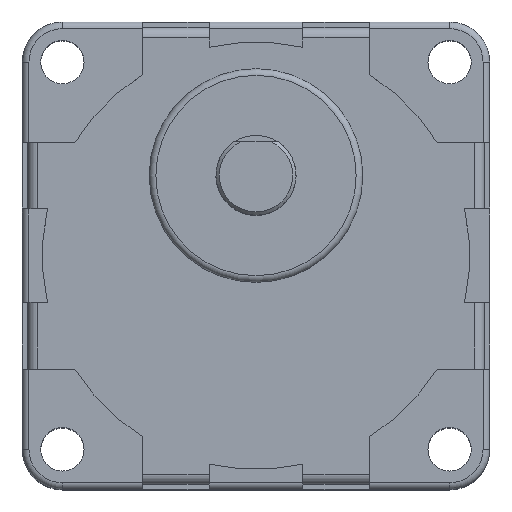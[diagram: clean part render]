
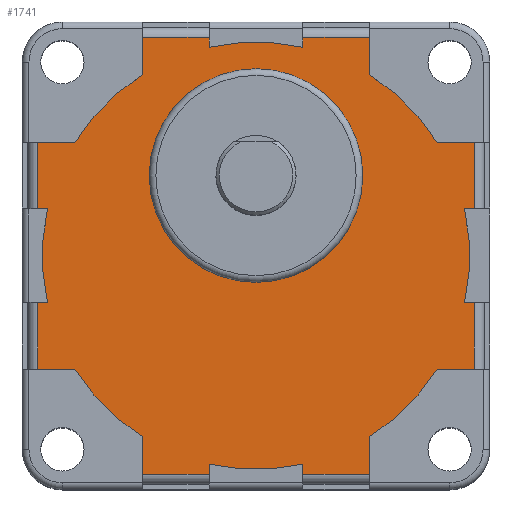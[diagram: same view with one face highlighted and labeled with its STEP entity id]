
A CAD part, top view. The second image highlights one B-rep face of the part: STEP entity #1741.
In plain terms, the highlighted planar face has unit normal (0, 0, 1).
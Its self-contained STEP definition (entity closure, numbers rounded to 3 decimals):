
#29=LINE('',#2638,#196);
#33=LINE('',#2650,#200);
#35=LINE('',#2656,#202);
#36=LINE('',#2660,#203);
#37=LINE('',#2662,#204);
#38=LINE('',#2664,#205);
#39=LINE('',#2668,#206);
#40=LINE('',#2670,#207);
#41=LINE('',#2672,#208);
#42=LINE('',#2676,#209);
#43=LINE('',#2678,#210);
#44=LINE('',#2680,#211);
#45=LINE('',#2684,#212);
#46=LINE('',#2686,#213);
#47=LINE('',#2688,#214);
#48=LINE('',#2692,#215);
#49=LINE('',#2694,#216);
#50=LINE('',#2696,#217);
#51=LINE('',#2700,#218);
#52=LINE('',#2702,#219);
#53=LINE('',#2704,#220);
#54=LINE('',#2707,#221);
#55=LINE('',#2709,#222);
#56=LINE('',#2712,#223);
#196=VECTOR('',#2099,10.);
#200=VECTOR('',#2109,10.);
#202=VECTOR('',#2115,5.589);
#203=VECTOR('',#2118,5.589);
#204=VECTOR('',#2119,10.);
#205=VECTOR('',#2120,1.475);
#206=VECTOR('',#2123,1.475);
#207=VECTOR('',#2124,10.);
#208=VECTOR('',#2125,5.589);
#209=VECTOR('',#2128,5.589);
#210=VECTOR('',#2129,10.);
#211=VECTOR('',#2130,1.475);
#212=VECTOR('',#2133,1.475);
#213=VECTOR('',#2134,10.);
#214=VECTOR('',#2135,5.589);
#215=VECTOR('',#2138,5.589);
#216=VECTOR('',#2139,10.);
#217=VECTOR('',#2140,1.475);
#218=VECTOR('',#2143,1.475);
#219=VECTOR('',#2144,10.);
#220=VECTOR('',#2145,5.589);
#221=VECTOR('',#2148,5.589);
#222=VECTOR('',#2149,1.475);
#223=VECTOR('',#2152,1.475);
#364=PLANE('',#1867);
#461=FACE_BOUND('',#602,.T.);
#488=FACE_OUTER_BOUND('',#601,.T.);
#601=EDGE_LOOP('',(#1269,#1270,#1271,#1272,#1273,#1274,#1275,#1276,#1277,
#1278,#1279,#1280,#1281,#1282,#1283,#1284,#1285,#1286,#1287,#1288,#1289,
#1290,#1291,#1292,#1293,#1294,#1295,#1296,#1297,#1298,#1299,#1300));
#602=EDGE_LOOP('',(#1301));
#711=CIRCLE('',#1858,16.);
#716=CIRCLE('',#1868,32.);
#717=CIRCLE('',#1869,32.);
#718=CIRCLE('',#1870,32.);
#719=CIRCLE('',#1871,32.);
#720=CIRCLE('',#1872,32.);
#721=CIRCLE('',#1873,32.);
#722=CIRCLE('',#1874,32.);
#723=CIRCLE('',#1875,32.);
#805=VERTEX_POINT('',#2627);
#806=VERTEX_POINT('',#2631);
#809=VERTEX_POINT('',#2636);
#813=VERTEX_POINT('',#2647);
#814=VERTEX_POINT('',#2649);
#816=VERTEX_POINT('',#2655);
#817=VERTEX_POINT('',#2657);
#818=VERTEX_POINT('',#2659);
#819=VERTEX_POINT('',#2661);
#820=VERTEX_POINT('',#2663);
#821=VERTEX_POINT('',#2665);
#822=VERTEX_POINT('',#2667);
#823=VERTEX_POINT('',#2669);
#824=VERTEX_POINT('',#2671);
#825=VERTEX_POINT('',#2673);
#826=VERTEX_POINT('',#2675);
#827=VERTEX_POINT('',#2677);
#828=VERTEX_POINT('',#2679);
#829=VERTEX_POINT('',#2681);
#830=VERTEX_POINT('',#2683);
#831=VERTEX_POINT('',#2685);
#832=VERTEX_POINT('',#2687);
#833=VERTEX_POINT('',#2689);
#834=VERTEX_POINT('',#2691);
#835=VERTEX_POINT('',#2693);
#836=VERTEX_POINT('',#2695);
#837=VERTEX_POINT('',#2697);
#838=VERTEX_POINT('',#2699);
#839=VERTEX_POINT('',#2701);
#840=VERTEX_POINT('',#2703);
#841=VERTEX_POINT('',#2705);
#842=VERTEX_POINT('',#2708);
#843=VERTEX_POINT('',#2710);
#982=EDGE_CURVE('',#805,#805,#711,.T.);
#986=EDGE_CURVE('',#809,#806,#29,.T.);
#991=EDGE_CURVE('',#813,#814,#33,.T.);
#994=EDGE_CURVE('',#809,#816,#35,.T.);
#995=EDGE_CURVE('',#817,#816,#716,.T.);
#996=EDGE_CURVE('',#818,#817,#36,.T.);
#997=EDGE_CURVE('',#819,#818,#37,.T.);
#998=EDGE_CURVE('',#820,#819,#38,.T.);
#999=EDGE_CURVE('',#821,#820,#717,.T.);
#1000=EDGE_CURVE('',#821,#822,#39,.T.);
#1001=EDGE_CURVE('',#823,#822,#40,.T.);
#1002=EDGE_CURVE('',#823,#824,#41,.T.);
#1003=EDGE_CURVE('',#825,#824,#718,.T.);
#1004=EDGE_CURVE('',#826,#825,#42,.T.);
#1005=EDGE_CURVE('',#827,#826,#43,.T.);
#1006=EDGE_CURVE('',#828,#827,#44,.T.);
#1007=EDGE_CURVE('',#829,#828,#719,.T.);
#1008=EDGE_CURVE('',#829,#830,#45,.T.);
#1009=EDGE_CURVE('',#831,#830,#46,.T.);
#1010=EDGE_CURVE('',#831,#832,#47,.T.);
#1011=EDGE_CURVE('',#833,#832,#720,.T.);
#1012=EDGE_CURVE('',#834,#833,#48,.T.);
#1013=EDGE_CURVE('',#835,#834,#49,.T.);
#1014=EDGE_CURVE('',#836,#835,#50,.T.);
#1015=EDGE_CURVE('',#837,#836,#721,.T.);
#1016=EDGE_CURVE('',#837,#838,#51,.T.);
#1017=EDGE_CURVE('',#839,#838,#52,.T.);
#1018=EDGE_CURVE('',#839,#840,#53,.T.);
#1019=EDGE_CURVE('',#841,#840,#722,.T.);
#1020=EDGE_CURVE('',#814,#841,#54,.T.);
#1021=EDGE_CURVE('',#842,#813,#55,.T.);
#1022=EDGE_CURVE('',#843,#842,#723,.T.);
#1023=EDGE_CURVE('',#843,#806,#56,.T.);
#1269=ORIENTED_EDGE('',*,*,#986,.F.);
#1270=ORIENTED_EDGE('',*,*,#994,.T.);
#1271=ORIENTED_EDGE('',*,*,#995,.F.);
#1272=ORIENTED_EDGE('',*,*,#996,.F.);
#1273=ORIENTED_EDGE('',*,*,#997,.F.);
#1274=ORIENTED_EDGE('',*,*,#998,.F.);
#1275=ORIENTED_EDGE('',*,*,#999,.F.);
#1276=ORIENTED_EDGE('',*,*,#1000,.T.);
#1277=ORIENTED_EDGE('',*,*,#1001,.F.);
#1278=ORIENTED_EDGE('',*,*,#1002,.T.);
#1279=ORIENTED_EDGE('',*,*,#1003,.F.);
#1280=ORIENTED_EDGE('',*,*,#1004,.F.);
#1281=ORIENTED_EDGE('',*,*,#1005,.F.);
#1282=ORIENTED_EDGE('',*,*,#1006,.F.);
#1283=ORIENTED_EDGE('',*,*,#1007,.F.);
#1284=ORIENTED_EDGE('',*,*,#1008,.T.);
#1285=ORIENTED_EDGE('',*,*,#1009,.F.);
#1286=ORIENTED_EDGE('',*,*,#1010,.T.);
#1287=ORIENTED_EDGE('',*,*,#1011,.F.);
#1288=ORIENTED_EDGE('',*,*,#1012,.F.);
#1289=ORIENTED_EDGE('',*,*,#1013,.F.);
#1290=ORIENTED_EDGE('',*,*,#1014,.F.);
#1291=ORIENTED_EDGE('',*,*,#1015,.F.);
#1292=ORIENTED_EDGE('',*,*,#1016,.T.);
#1293=ORIENTED_EDGE('',*,*,#1017,.F.);
#1294=ORIENTED_EDGE('',*,*,#1018,.T.);
#1295=ORIENTED_EDGE('',*,*,#1019,.F.);
#1296=ORIENTED_EDGE('',*,*,#1020,.F.);
#1297=ORIENTED_EDGE('',*,*,#991,.F.);
#1298=ORIENTED_EDGE('',*,*,#1021,.F.);
#1299=ORIENTED_EDGE('',*,*,#1022,.F.);
#1300=ORIENTED_EDGE('',*,*,#1023,.T.);
#1301=ORIENTED_EDGE('',*,*,#982,.F.);
#1741=ADVANCED_FACE('',(#488,#461),#364,.T.);
#1858=AXIS2_PLACEMENT_3D('',#2628,#2088,#2089);
#1867=AXIS2_PLACEMENT_3D('',#2654,#2113,#2114);
#1868=AXIS2_PLACEMENT_3D('',#2658,#2116,#2117);
#1869=AXIS2_PLACEMENT_3D('',#2666,#2121,#2122);
#1870=AXIS2_PLACEMENT_3D('',#2674,#2126,#2127);
#1871=AXIS2_PLACEMENT_3D('',#2682,#2131,#2132);
#1872=AXIS2_PLACEMENT_3D('',#2690,#2136,#2137);
#1873=AXIS2_PLACEMENT_3D('',#2698,#2141,#2142);
#1874=AXIS2_PLACEMENT_3D('',#2706,#2146,#2147);
#1875=AXIS2_PLACEMENT_3D('',#2711,#2150,#2151);
#2088=DIRECTION('center_axis',(0.,0.,1.));
#2089=DIRECTION('ref_axis',(-1.,0.,0.));
#2099=DIRECTION('',(0.,-1.,0.));
#2109=DIRECTION('',(0.,-1.,0.));
#2113=DIRECTION('center_axis',(0.,0.,1.));
#2114=DIRECTION('ref_axis',(1.,0.,0.));
#2115=DIRECTION('',(-1.,0.,0.));
#2116=DIRECTION('center_axis',(0.,0.,-1.));
#2117=DIRECTION('ref_axis',(-1.,0.,0.));
#2118=DIRECTION('',(0.,-1.,0.));
#2119=DIRECTION('',(1.,0.,0.));
#2120=DIRECTION('',(0.,1.,0.));
#2121=DIRECTION('center_axis',(0.,0.,-1.));
#2122=DIRECTION('ref_axis',(-1.,0.,0.));
#2123=DIRECTION('',(0.,1.,0.));
#2124=DIRECTION('',(1.,0.,0.));
#2125=DIRECTION('',(0.,-1.,0.));
#2126=DIRECTION('center_axis',(0.,0.,-1.));
#2127=DIRECTION('ref_axis',(-1.,0.,0.));
#2128=DIRECTION('',(1.,0.,0.));
#2129=DIRECTION('',(0.,1.,0.));
#2130=DIRECTION('',(-1.,0.,0.));
#2131=DIRECTION('center_axis',(0.,0.,-1.));
#2132=DIRECTION('ref_axis',(-1.,0.,0.));
#2133=DIRECTION('',(-1.,0.,0.));
#2134=DIRECTION('',(0.,1.,0.));
#2135=DIRECTION('',(1.,0.,0.));
#2136=DIRECTION('center_axis',(0.,0.,-1.));
#2137=DIRECTION('ref_axis',(-1.,0.,0.));
#2138=DIRECTION('',(0.,1.,0.));
#2139=DIRECTION('',(-1.,0.,0.));
#2140=DIRECTION('',(0.,-1.,0.));
#2141=DIRECTION('center_axis',(0.,0.,-1.));
#2142=DIRECTION('ref_axis',(-1.,0.,0.));
#2143=DIRECTION('',(0.,-1.,0.));
#2144=DIRECTION('',(-1.,0.,0.));
#2145=DIRECTION('',(0.,1.,0.));
#2146=DIRECTION('center_axis',(0.,0.,-1.));
#2147=DIRECTION('ref_axis',(-1.,0.,0.));
#2148=DIRECTION('',(-1.,0.,0.));
#2149=DIRECTION('',(1.,0.,0.));
#2150=DIRECTION('center_axis',(0.,0.,-1.));
#2151=DIRECTION('ref_axis',(-1.,0.,0.));
#2152=DIRECTION('',(1.,0.,0.));
#2627=CARTESIAN_POINT('',(16.,12.,47.2));
#2628=CARTESIAN_POINT('Origin',(0.,12.,47.2));
#2631=CARTESIAN_POINT('',(32.7,7.,47.2));
#2636=CARTESIAN_POINT('',(32.7,17.,47.2));
#2638=CARTESIAN_POINT('',(32.7,8.5,47.2));
#2647=CARTESIAN_POINT('',(32.7,-7.,47.2));
#2649=CARTESIAN_POINT('',(32.7,-17.,47.2));
#2650=CARTESIAN_POINT('',(32.7,-8.5,47.2));
#2654=CARTESIAN_POINT('Origin',(0.,0.,47.2));
#2655=CARTESIAN_POINT('',(27.111,17.,47.2));
#2656=CARTESIAN_POINT('',(27.111,17.,47.2));
#2657=CARTESIAN_POINT('',(17.,27.111,47.2));
#2658=CARTESIAN_POINT('Origin',(0.,0.,47.2));
#2659=CARTESIAN_POINT('',(17.,32.7,47.2));
#2660=CARTESIAN_POINT('',(17.,27.111,47.2));
#2661=CARTESIAN_POINT('',(7.,32.7,47.2));
#2662=CARTESIAN_POINT('',(8.5,32.7,47.2));
#2663=CARTESIAN_POINT('',(7.,31.225,47.2));
#2664=CARTESIAN_POINT('',(7.,35.,47.2));
#2665=CARTESIAN_POINT('',(-7.,31.225,47.2));
#2666=CARTESIAN_POINT('Origin',(0.,0.,47.2));
#2667=CARTESIAN_POINT('',(-7.,32.7,47.2));
#2668=CARTESIAN_POINT('',(-7.,35.,47.2));
#2669=CARTESIAN_POINT('',(-17.,32.7,47.2));
#2670=CARTESIAN_POINT('',(-8.5,32.7,47.2));
#2671=CARTESIAN_POINT('',(-17.,27.111,47.2));
#2672=CARTESIAN_POINT('',(-17.,27.111,47.2));
#2673=CARTESIAN_POINT('',(-27.111,17.,47.2));
#2674=CARTESIAN_POINT('Origin',(0.,0.,47.2));
#2675=CARTESIAN_POINT('',(-32.7,17.,47.2));
#2676=CARTESIAN_POINT('',(-27.111,17.,47.2));
#2677=CARTESIAN_POINT('',(-32.7,7.,47.2));
#2678=CARTESIAN_POINT('',(-32.7,8.5,47.2));
#2679=CARTESIAN_POINT('',(-31.225,7.,47.2));
#2680=CARTESIAN_POINT('',(-35.,7.,47.2));
#2681=CARTESIAN_POINT('',(-31.225,-7.,47.2));
#2682=CARTESIAN_POINT('Origin',(0.,0.,47.2));
#2683=CARTESIAN_POINT('',(-32.7,-7.,47.2));
#2684=CARTESIAN_POINT('',(-35.,-7.,47.2));
#2685=CARTESIAN_POINT('',(-32.7,-17.,47.2));
#2686=CARTESIAN_POINT('',(-32.7,-8.5,47.2));
#2687=CARTESIAN_POINT('',(-27.111,-17.,47.2));
#2688=CARTESIAN_POINT('',(-27.111,-17.,47.2));
#2689=CARTESIAN_POINT('',(-17.,-27.111,47.2));
#2690=CARTESIAN_POINT('Origin',(0.,0.,47.2));
#2691=CARTESIAN_POINT('',(-17.,-32.7,47.2));
#2692=CARTESIAN_POINT('',(-17.,-27.111,47.2));
#2693=CARTESIAN_POINT('',(-7.,-32.7,47.2));
#2694=CARTESIAN_POINT('',(-8.5,-32.7,47.2));
#2695=CARTESIAN_POINT('',(-7.,-31.225,47.2));
#2696=CARTESIAN_POINT('',(-7.,-35.,47.2));
#2697=CARTESIAN_POINT('',(7.,-31.225,47.2));
#2698=CARTESIAN_POINT('Origin',(0.,0.,47.2));
#2699=CARTESIAN_POINT('',(7.,-32.7,47.2));
#2700=CARTESIAN_POINT('',(7.,-35.,47.2));
#2701=CARTESIAN_POINT('',(17.,-32.7,47.2));
#2702=CARTESIAN_POINT('',(8.5,-32.7,47.2));
#2703=CARTESIAN_POINT('',(17.,-27.111,47.2));
#2704=CARTESIAN_POINT('',(17.,-27.111,47.2));
#2705=CARTESIAN_POINT('',(27.111,-17.,47.2));
#2706=CARTESIAN_POINT('Origin',(0.,0.,47.2));
#2707=CARTESIAN_POINT('',(27.111,-17.,47.2));
#2708=CARTESIAN_POINT('',(31.225,-7.,47.2));
#2709=CARTESIAN_POINT('',(35.,-7.,47.2));
#2710=CARTESIAN_POINT('',(31.225,7.,47.2));
#2711=CARTESIAN_POINT('Origin',(0.,0.,47.2));
#2712=CARTESIAN_POINT('',(35.,7.,47.2));
